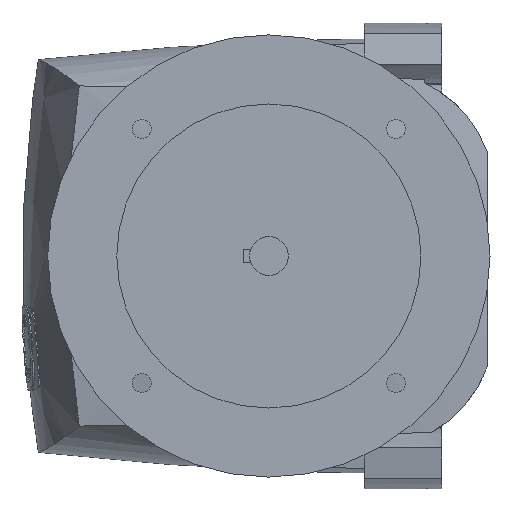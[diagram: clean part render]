
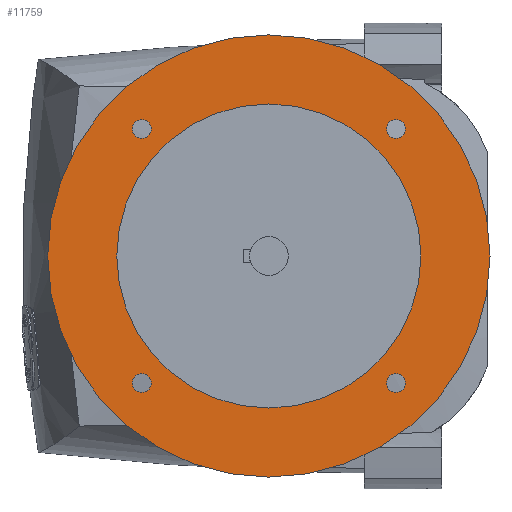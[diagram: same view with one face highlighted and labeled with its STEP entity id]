
A CAD part, left-side view. The second image highlights one B-rep face of the part: STEP entity #11759.
In plain terms, the highlighted planar face has unit normal (-1, 0, 0).
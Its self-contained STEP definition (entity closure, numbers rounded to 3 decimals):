
#3104=CARTESIAN_POINT('',(-123.5,124.962,-45.962));
#3105=DIRECTION('',(1.,0.,0.));
#3106=DIRECTION('',(0.,-1.,0.));
#3107=AXIS2_PLACEMENT_3D('',#3104,#3105,#3106);
#3109=CARTESIAN_POINT('',(-123.5,124.962,-45.962));
#3110=DIRECTION('',(1.,0.,0.));
#3111=DIRECTION('',(0.,1.,0.));
#3112=AXIS2_PLACEMENT_3D('',#3109,#3110,#3111);
#3114=CARTESIAN_POINT('',(-123.5,33.038,-45.962));
#3115=DIRECTION('',(1.,0.,0.));
#3116=DIRECTION('',(0.,-1.,0.));
#3117=AXIS2_PLACEMENT_3D('',#3114,#3115,#3116);
#3119=CARTESIAN_POINT('',(-123.5,33.038,-45.962));
#3120=DIRECTION('',(1.,0.,0.));
#3121=DIRECTION('',(0.,1.,0.));
#3122=AXIS2_PLACEMENT_3D('',#3119,#3120,#3121);
#3124=CARTESIAN_POINT('',(-123.5,33.038,45.962));
#3125=DIRECTION('',(1.,0.,0.));
#3126=DIRECTION('',(0.,-1.,0.));
#3127=AXIS2_PLACEMENT_3D('',#3124,#3125,#3126);
#3129=CARTESIAN_POINT('',(-123.5,33.038,45.962));
#3130=DIRECTION('',(1.,0.,0.));
#3131=DIRECTION('',(0.,1.,0.));
#3132=AXIS2_PLACEMENT_3D('',#3129,#3130,#3131);
#3134=CARTESIAN_POINT('',(-123.5,124.962,45.962));
#3135=DIRECTION('',(1.,0.,0.));
#3136=DIRECTION('',(0.,-1.,0.));
#3137=AXIS2_PLACEMENT_3D('',#3134,#3135,#3136);
#3139=CARTESIAN_POINT('',(-123.5,124.962,45.962));
#3140=DIRECTION('',(1.,0.,0.));
#3141=DIRECTION('',(0.,1.,0.));
#3142=AXIS2_PLACEMENT_3D('',#3139,#3140,#3141);
#3144=CARTESIAN_POINT('',(-123.5,79.,0.));
#3145=DIRECTION('',(1.,0.,0.));
#3146=DIRECTION('',(0.,-1.,0.));
#3147=AXIS2_PLACEMENT_3D('',#3144,#3145,#3146);
#3149=CARTESIAN_POINT('',(-123.5,79.,0.));
#3150=DIRECTION('',(1.,0.,0.));
#3151=DIRECTION('',(0.,1.,0.));
#3152=AXIS2_PLACEMENT_3D('',#3149,#3150,#3151);
#3154=CARTESIAN_POINT('',(-123.5,79.,0.));
#3155=DIRECTION('',(-1.,0.,0.));
#3156=DIRECTION('',(0.,-1.,0.));
#3157=AXIS2_PLACEMENT_3D('',#3154,#3155,#3156);
#3159=CARTESIAN_POINT('',(-123.5,79.,0.));
#3160=DIRECTION('',(-1.,0.,0.));
#3161=DIRECTION('',(0.,1.,0.));
#3162=AXIS2_PLACEMENT_3D('',#3159,#3160,#3161);
#6758=CARTESIAN_POINT('',(-123.5,159.,0.));
#6759=VERTEX_POINT('',#6758);
#6760=CARTESIAN_POINT('',(-123.5,-1.,0.));
#6761=VERTEX_POINT('',#6760);
#6762=CARTESIAN_POINT('',(-123.5,24.,0.));
#6763=CARTESIAN_POINT('',(-123.5,134.,0.));
#6764=VERTEX_POINT('',#6762);
#6765=VERTEX_POINT('',#6763);
#7314=CARTESIAN_POINT('',(-123.5,121.562,45.962));
#7315=CARTESIAN_POINT('',(-123.5,128.362,45.962));
#7316=VERTEX_POINT('',#7314);
#7317=VERTEX_POINT('',#7315);
#7318=CARTESIAN_POINT('',(-123.5,29.638,45.962));
#7319=CARTESIAN_POINT('',(-123.5,36.438,45.962));
#7320=VERTEX_POINT('',#7318);
#7321=VERTEX_POINT('',#7319);
#7322=CARTESIAN_POINT('',(-123.5,29.638,-45.962));
#7323=CARTESIAN_POINT('',(-123.5,36.438,-45.962));
#7324=VERTEX_POINT('',#7322);
#7325=VERTEX_POINT('',#7323);
#7326=CARTESIAN_POINT('',(-123.5,121.562,-45.962));
#7327=CARTESIAN_POINT('',(-123.5,128.362,-45.962));
#7328=VERTEX_POINT('',#7326);
#7329=VERTEX_POINT('',#7327);
#11719=CARTESIAN_POINT('',(-123.5,79.,0.));
#11720=DIRECTION('',(1.,0.,0.));
#11721=DIRECTION('',(0.,-1.,0.));
#11722=AXIS2_PLACEMENT_3D('',#11719,#11720,#11721);
#11723=PLANE('',#11722);
#11725=ORIENTED_EDGE('',*,*,#11724,.T.);
#11727=ORIENTED_EDGE('',*,*,#11726,.T.);
#11728=EDGE_LOOP('',(#11725,#11727));
#11729=FACE_OUTER_BOUND('',#11728,.F.);
#11730=ORIENTED_EDGE('',*,*,#11709,.F.);
#11732=ORIENTED_EDGE('',*,*,#11731,.F.);
#11733=EDGE_LOOP('',(#11730,#11732));
#11734=FACE_BOUND('',#11733,.F.);
#11736=ORIENTED_EDGE('',*,*,#11735,.F.);
#11738=ORIENTED_EDGE('',*,*,#11737,.F.);
#11739=EDGE_LOOP('',(#11736,#11738));
#11740=FACE_BOUND('',#11739,.F.);
#11742=ORIENTED_EDGE('',*,*,#11741,.F.);
#11744=ORIENTED_EDGE('',*,*,#11743,.F.);
#11745=EDGE_LOOP('',(#11742,#11744));
#11746=FACE_BOUND('',#11745,.F.);
#11748=ORIENTED_EDGE('',*,*,#11747,.F.);
#11750=ORIENTED_EDGE('',*,*,#11749,.F.);
#11751=EDGE_LOOP('',(#11748,#11750));
#11752=FACE_BOUND('',#11751,.F.);
#11754=ORIENTED_EDGE('',*,*,#11753,.T.);
#11756=ORIENTED_EDGE('',*,*,#11755,.T.);
#11757=EDGE_LOOP('',(#11754,#11756));
#11758=FACE_BOUND('',#11757,.F.);
#11759=ADVANCED_FACE('',(#11729,#11734,#11740,#11746,#11752,#11758),#11723,.F.);
#3108=CIRCLE('',#3107,3.4);
#3113=CIRCLE('',#3112,3.4);
#3118=CIRCLE('',#3117,3.4);
#3123=CIRCLE('',#3122,3.4);
#3128=CIRCLE('',#3127,3.4);
#3133=CIRCLE('',#3132,3.4);
#3138=CIRCLE('',#3137,3.4);
#3143=CIRCLE('',#3142,3.4);
#3148=CIRCLE('',#3147,80.);
#3153=CIRCLE('',#3152,80.);
#3158=CIRCLE('',#3157,55.);
#3163=CIRCLE('',#3162,55.);
#11709=EDGE_CURVE('',#7328,#7329,#3108,.T.);
#11724=EDGE_CURVE('',#6761,#6759,#3148,.T.);
#11726=EDGE_CURVE('',#6759,#6761,#3153,.T.);
#11731=EDGE_CURVE('',#7329,#7328,#3113,.T.);
#11735=EDGE_CURVE('',#7324,#7325,#3118,.T.);
#11737=EDGE_CURVE('',#7325,#7324,#3123,.T.);
#11741=EDGE_CURVE('',#7320,#7321,#3128,.T.);
#11743=EDGE_CURVE('',#7321,#7320,#3133,.T.);
#11747=EDGE_CURVE('',#7316,#7317,#3138,.T.);
#11749=EDGE_CURVE('',#7317,#7316,#3143,.T.);
#11753=EDGE_CURVE('',#6764,#6765,#3158,.T.);
#11755=EDGE_CURVE('',#6765,#6764,#3163,.T.);
